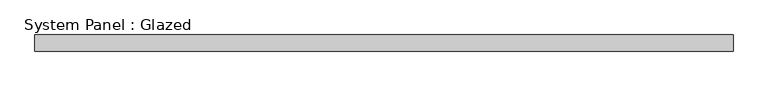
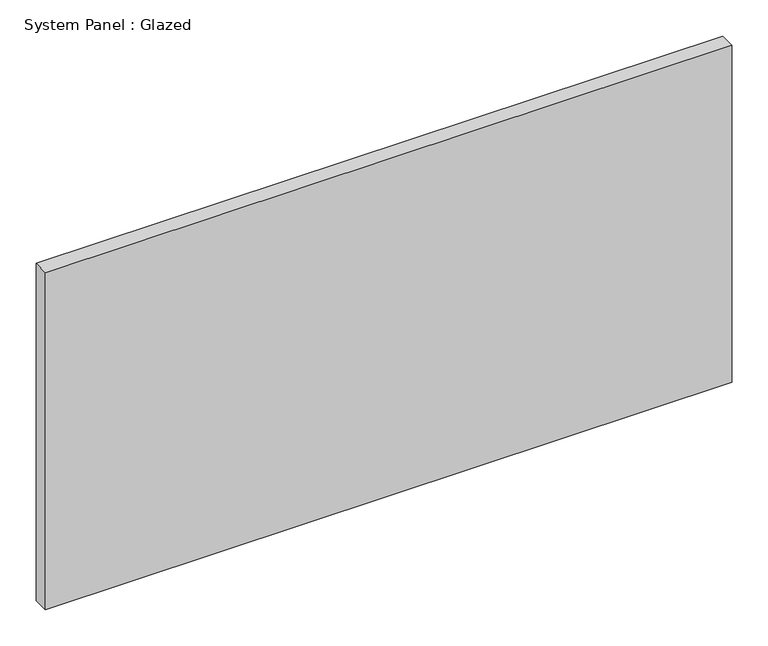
"""IFC4 building model written with IfcOpenShell, lengths in millimetres: plate geometry, System Panel : Glazed."""

from ifc_helpers import new_model, si_unit, origin, origin_with_axes, place, context, project, spatial, polyline, outline, extrude, source, transform, mapped, element, save


def system_panel_glazed_2151d693(model_context):
    return source(origin(), model_context, "Body", "SweptSolid", [
        extrude(outline(polyline([(550.303141, -44.45), (-550.303141, -44.45), (-550.303141, -19.05), (550.303141, -19.05), (550.303141, -44.45)])), origin_with_axes(), (0.0, 0.0, 1.0), 571.5),
    ])


if __name__ == "__main__":
    model = new_model("IFC4")
    model_context = context("Model", 3, world=origin())
    ifc_project = project(units=[si_unit("LENGTHUNIT", "METRE", prefix="MILLI")], contexts=[model_context])
    site = spatial("IfcSite", under=ifc_project)
    building = spatial("IfcBuilding", under=site)
    placement = place(None, origin())
    system_panel_glazed_shape = system_panel_glazed_2151d693(model_context)
    element("IfcPlate", 1, ObjectType="System Panel : Glazed", at=placement, inside=building, context=model_context, shape_type="MappedRepresentation", body=[
        mapped(system_panel_glazed_shape, transform((0.0, 0.0, 0.0), x_axis=(1.0, 0.0, 0.0), y_axis=(0.0, 1.0, 0.0), z_axis=(0.0, 0.0, 1.0))),
    ])
    save(model, "model.ifc")
